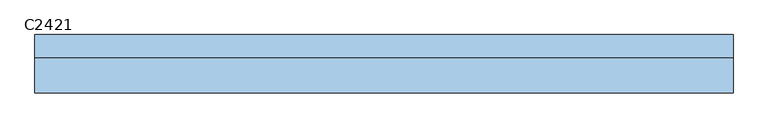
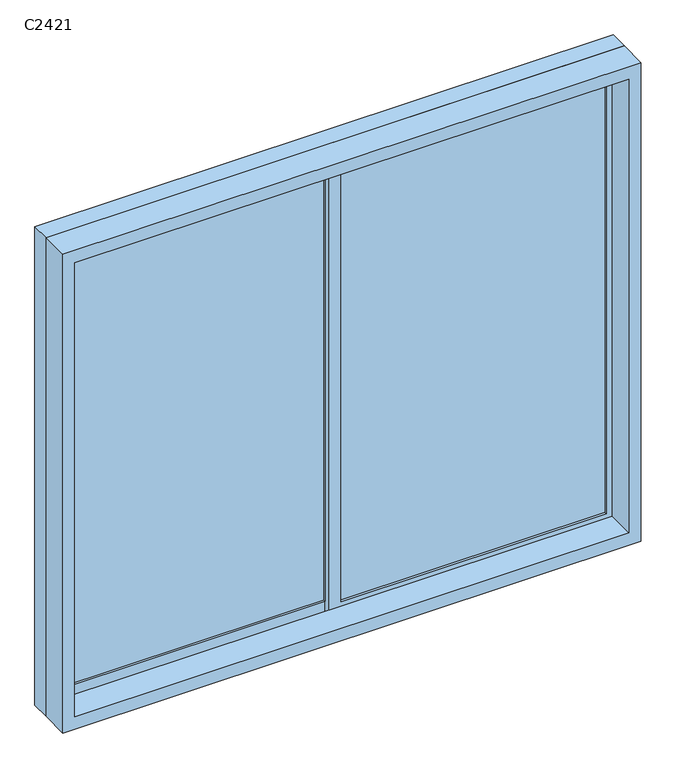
"""IFC4 building model written with IfcOpenShell, lengths in millimetres: window geometry, 推拉窗6 : C2421."""

from ifc_helpers import new_model, si_unit, frame, origin, place, context, project, spatial, polyline, outline, extrude, source, transform, mapped, element, save


def c2421_ffb013b5(model_context):
    return source(origin(), model_context, "Body", "SweptSolid", [
        extrude(outline(polyline([(-1115.475, 3.1265625), (-15.475, 3.1265625), (-15.475, -6.8734375), (-1115.475, -6.8734375), (-1115.475, 3.1265625)])), frame((0.0, 0.0, 675.0), z_axis=(0.0, 0.0, 1.0), x_axis=(1.0, 0.0, 0.0)), (0.0, 0.0, 1.0), 1950.0),
        extrude(outline(polyline([(34.525, -26.8734375), (1134.525, -26.8734375), (1134.525, -36.8734375), (34.525, -36.8734375), (34.525, -26.8734375)])), frame((0.0, 0.0, 675.0), z_axis=(0.0, 0.0, 1.0), x_axis=(1.0, 0.0, 0.0)), (0.0, 0.0, 1.0), 1950.0),
        extrude(outline(polyline([(2700.0, -1190.475), (600.0, -1190.475), (600.0, 1209.525), (2700.0, 1209.525), (2700.0, -1190.475)]), holes=[polyline([(2645.0, 1159.525), (655.0, 1159.525), (655.0, -1140.475), (2645.0, -1140.475), (2645.0, 1159.525)])]), frame((0.0, -166.8734375, 0.0), z_axis=(0.0, 1.0, 0.0), x_axis=(0.0, 0.0, 1.0)), (0.0, 0.0, 1.0), 120.0),
        extrude(outline(polyline([(625.0, 34.525), (2675.0, 34.525), (2675.0, -1165.475), (625.0, -1165.475), (625.0, 34.525)]), holes=[polyline([(675.0, -15.475), (675.0, -1115.475), (2625.0, -1115.475), (2625.0, -15.475), (675.0, -15.475)])]), frame((0.0, -16.8734375, 0.0), z_axis=(0.0, 1.0, 0.0), x_axis=(0.0, 0.0, 1.0)), (0.0, 0.0, 1.0), 30.0),
        extrude(outline(polyline([(2675.0, -15.475), (625.0, -15.475), (625.0, 1184.525), (2675.0, 1184.525), (2675.0, -15.475)]), holes=[polyline([(2625.0, 34.525), (2625.0, 1134.525), (675.0, 1134.525), (675.0, 34.525), (2625.0, 34.525)])]), frame((0.0, -46.8734375, 0.0), z_axis=(0.0, 1.0, 0.0), x_axis=(0.0, 0.0, 1.0)), (0.0, 0.0, 1.0), 30.0),
        extrude(outline(polyline([(2700.0, -1190.475), (600.0, -1190.475), (600.0, 1209.525), (2700.0, 1209.525), (2700.0, -1190.475)]), holes=[polyline([(625.0, -1165.475), (2675.0, -1165.475), (2675.0, 1184.525), (625.0, 1184.525), (625.0, -1165.475)])]), frame((0.0, -46.8734375, 0.0), z_axis=(0.0, 1.0, 0.0), x_axis=(0.0, 0.0, 1.0)), (0.0, 0.0, 1.0), 80.0),
    ])


if __name__ == "__main__":
    model = new_model("IFC4")
    model_context = context("Model", 3, world=origin())
    ifc_project = project(units=[si_unit("LENGTHUNIT", "METRE", prefix="MILLI")], contexts=[model_context])
    site = spatial("IfcSite", under=ifc_project)
    building = spatial("IfcBuilding", under=site)
    placement = place(None, origin())
    c2421_shape = c2421_ffb013b5(model_context)
    element("IfcWindow", 1, ObjectType="推拉窗6 : C2421", at=placement, inside=building, context=model_context, shape_type="MappedRepresentation", body=[
        mapped(c2421_shape, transform((0.0, 0.0, 0.0), x_axis=(1.0, 0.0, 0.0), y_axis=(0.0, 1.0, 0.0), z_axis=(0.0, 0.0, 1.0))),
    ])
    save(model, "model.ifc")
